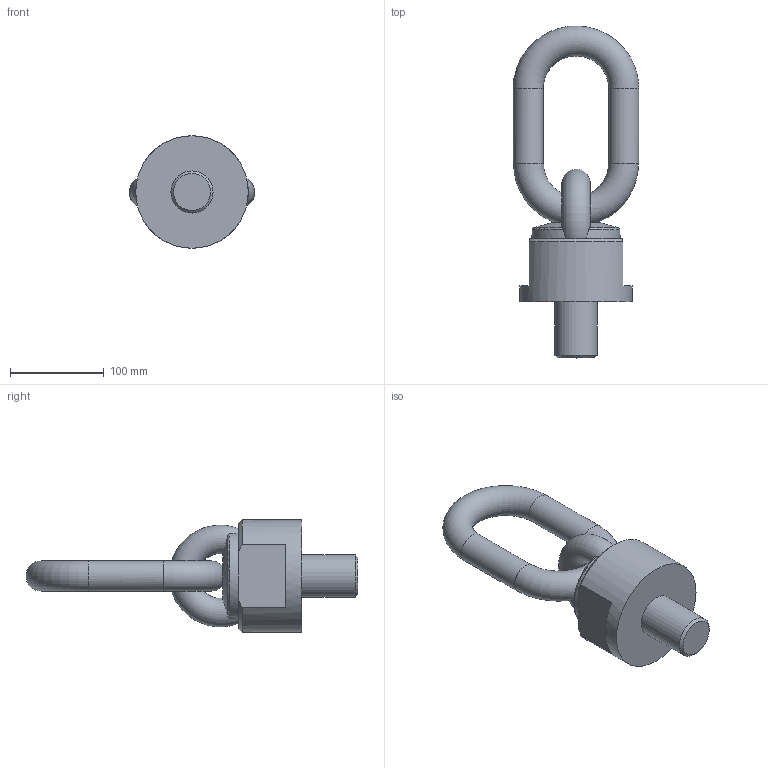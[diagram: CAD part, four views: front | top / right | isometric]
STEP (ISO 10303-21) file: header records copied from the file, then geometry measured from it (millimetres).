
FILE_DESCRIPTION( ( 'STEP AP203' ), '1' );
FILE_NAME( 'p:/temp/worker_25/temp/app_55_0201906261457049940728810e898ce_000000_00_00_000000/format_3/C800X1604560.stp', '2019-06-26T12:57:08', ( '' ), ( '' ), ' ', 'PARTsolutions', ' ' );
FILE_SCHEMA( ( 'CONFIG_CONTROL_DESIGN' ) );
Length unit declared in the file: millimetre
Products named in the file (1): _C800X1604560
Bounding box: 134 x 353.96 x 120 mm (x, y, z)
Volume: 1393841.8 mm3; surface area: 116482.2 mm2
Topology: 1 solids, 1 shells, 28 faces, 70 edges, 44 vertices
Faces by surface type: plane 12, cylinder 6, torus 5, cone 5
Full cylindrical faces by diameter (mm): 32 x2, 45 x1, 120 x1
Entity records: 1247 total; most frequent: CARTESIAN_POINT 597, DIRECTION 122, ORIENTED_EDGE 116, EDGE_CURVE 58, AXIS2_PLACEMENT_3D 57, EDGE_LOOP 42, VERTEX_POINT 41, FACE_OUTER_BOUND 35
